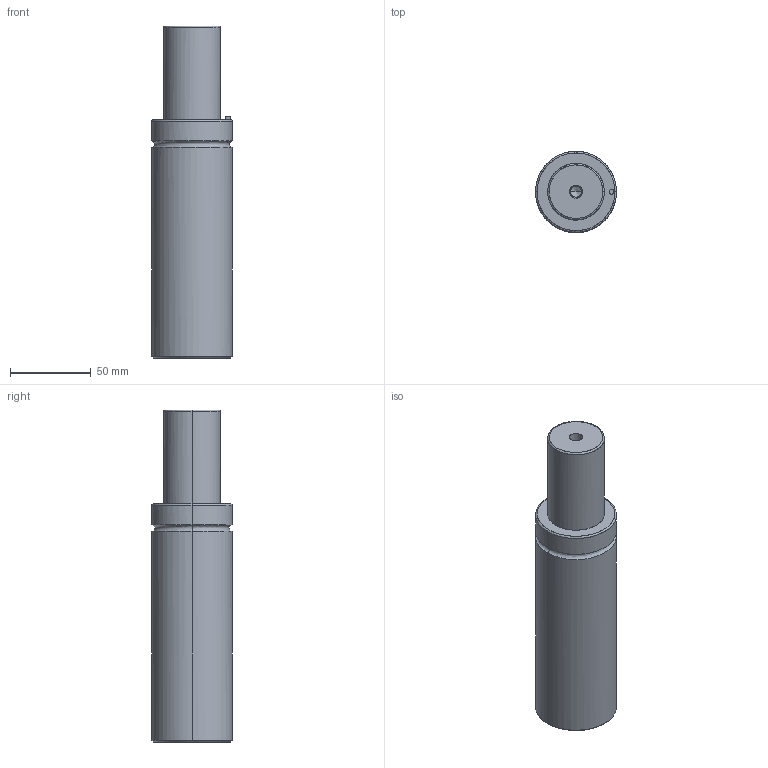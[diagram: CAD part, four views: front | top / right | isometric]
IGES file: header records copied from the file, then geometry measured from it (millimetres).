
Global section: file name: E:\UnigraphicsGraphicData\MISUMI_PRESS-PARTS\IGES\3d_gsm50-56_03912_r00.igs; native system: NX V5.0; preprocessor: UGS NX IGES V5.0; author: MISUMI; date: 20110105.160816; units: millimetre
Bounding box: 50 x 49.98 x 205 mm (x, y, z)
Surface area: 34957.5 mm2 (no closed solid volume)
Topology: 0 solids, 0 shells, 48 faces, 336 edges, 328 vertices
Faces by surface type: bspline 48
